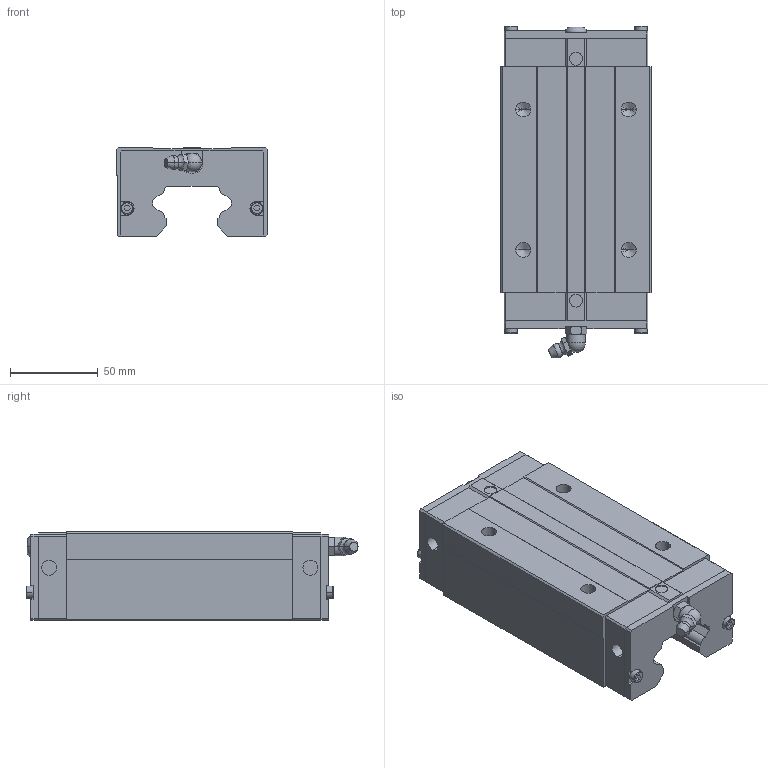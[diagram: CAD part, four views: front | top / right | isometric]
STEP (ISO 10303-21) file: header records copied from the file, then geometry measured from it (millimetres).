
FILE_DESCRIPTION(('no description'),'unknown implementation level');
FILE_NAME('HGL45HA_Z0_H_SS_10.stp',' ',('HIWIN GmbH'),('CADClick - KiM GmbH - www.kimweb.de'),'unknown preprocess','ACIS','unknown authorization');
FILE_SCHEMA(('automotive_design'));
Length unit declared in the file: millimetre
Products named in the file (1): HGL45HA Z0 H SS
Bounding box: 86 x 189.13 x 50.5 mm (x, y, z)
Volume: 537844.4 mm3; surface area: 68477.8 mm2
Topology: 1 solids, 6 shells, 296 faces, 753 edges, 475 vertices
Faces by surface type: plane 182, cylinder 60, torus 30, cone 22, sphere 2
Entity records: 17388 total; most frequent: CARTESIAN_POINT 1735, STYLED_ITEM 1515, PRESENTATION_STYLE_ASSIGNMENT 1515, COLOUR_RGB 1515, DIRECTION 1498, ORIENTED_EDGE 1486, EDGE_CURVE 743, CURVE_STYLE 743
